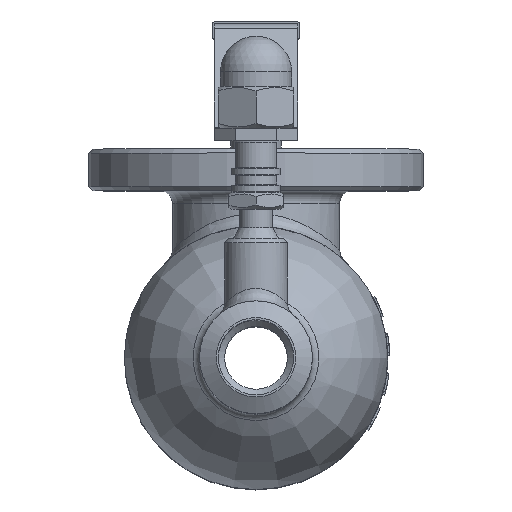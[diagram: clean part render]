
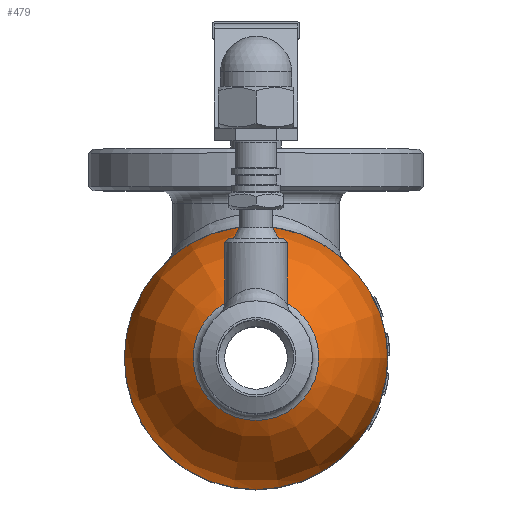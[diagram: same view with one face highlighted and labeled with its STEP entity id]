
A CAD part, top view. The second image highlights one B-rep face of the part: STEP entity #479.
In plain terms, the highlighted face is a revolution surface.
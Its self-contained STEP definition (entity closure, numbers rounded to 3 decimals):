
#479=ADVANCED_FACE('',(#2789,#2791),#2793,.T.);
#2789=FACE_OUTER_BOUND('',#2790,.T.);
#2790=EDGE_LOOP('',(#25555));
#2791=FACE_BOUND('',#2792,.T.);
#2792=EDGE_LOOP('',(#25556,#25557));
#2793=SURFACE_OF_REVOLUTION('',#2794,#2795);
#2794=(BOUNDED_CURVE()B_SPLINE_CURVE(3,
(#25558,#25559,#25560,#25561),
.UNSPECIFIED.,.F.,.F.)B_SPLINE_CURVE_WITH_KNOTS((4,4),
(0.,1.),
.UNSPECIFIED.)CURVE()GEOMETRIC_REPRESENTATION_ITEM()RATIONAL_B_SPLINE_CURVE((1.,
0.909,0.909,1.))REPRESENTATION_ITEM(''));
#2795=AXIS1_PLACEMENT('',#2796,#2797);
#2796=CARTESIAN_POINT('',(0.,0.,28.5));
#2797=DIRECTION('',(0.,0.,1.));
#25555=ORIENTED_EDGE('',*,*,#31631,.T.);
#25556=ORIENTED_EDGE('',*,*,#31904,.T.);
#25557=ORIENTED_EDGE('',*,*,#31905,.T.);
#25558=CARTESIAN_POINT('',(31.5,0.,28.5));
#25559=CARTESIAN_POINT('',(31.5,0.,40.474));
#25560=CARTESIAN_POINT('',(25.459,0.,50.813));
#25561=CARTESIAN_POINT('',(15.027,0.,56.692));
#31631=EDGE_CURVE('',#34060,#34060,#34061,.T.);
#31904=EDGE_CURVE('',#34606,#34607,#34608,.T.);
#31905=EDGE_CURVE('',#34607,#34606,#34609,.T.);
#34060=VERTEX_POINT('',#44323);
#34061=CIRCLE('',#44324,31.5);
#34606=VERTEX_POINT('',#53203);
#34607=VERTEX_POINT('',#53204);
#34608=CIRCLE('',#53205,15.027);
#34609=CIRCLE('',#53209,15.027);
#44323=CARTESIAN_POINT('',(31.5,0.,28.5));
#44324=AXIS2_PLACEMENT_3D('',#44325,#44326,#44327);
#44325=CARTESIAN_POINT('',(0.,0.,28.5));
#44326=DIRECTION('',(0.,0.,1.));
#44327=DIRECTION('',(1.,0.,0.));
#53203=CARTESIAN_POINT('',(15.027,0.,56.692));
#53204=CARTESIAN_POINT('',(-15.027,0.,56.692));
#53205=AXIS2_PLACEMENT_3D('',#53206,#53207,#53208);
#53206=CARTESIAN_POINT('',(0.,0.,56.692));
#53207=DIRECTION('',(0.,0.,-1.));
#53208=DIRECTION('',(1.,0.,0.));
#53209=AXIS2_PLACEMENT_3D('',#53210,#53211,#53212);
#53210=CARTESIAN_POINT('',(0.,0.,56.692));
#53211=DIRECTION('',(0.,0.,-1.));
#53212=DIRECTION('',(-1.,0.,0.));
